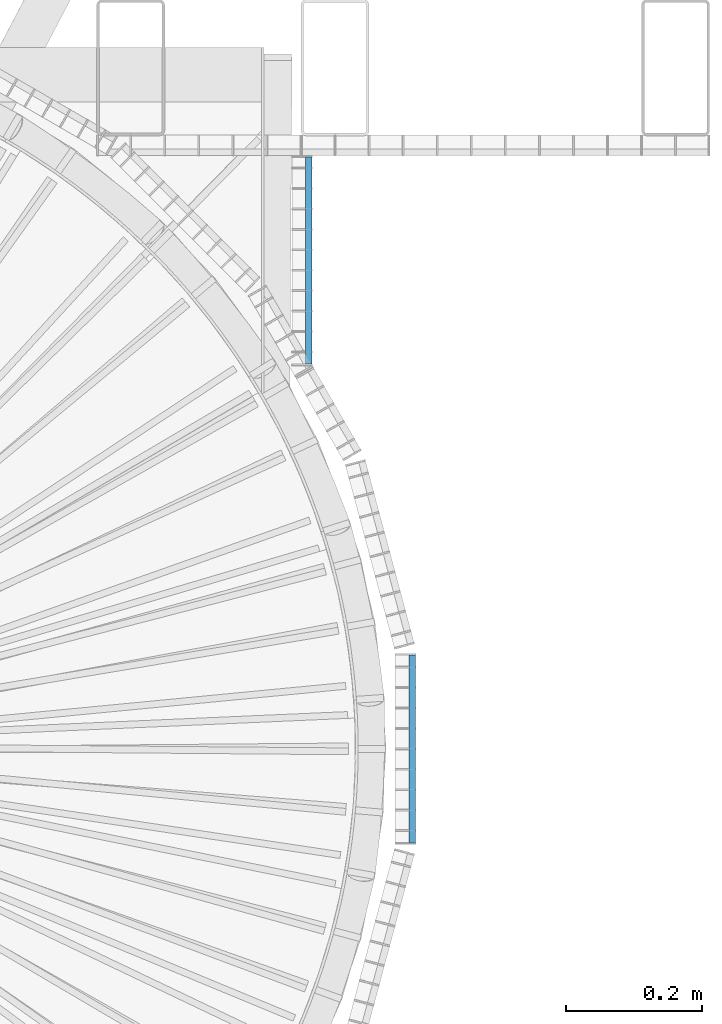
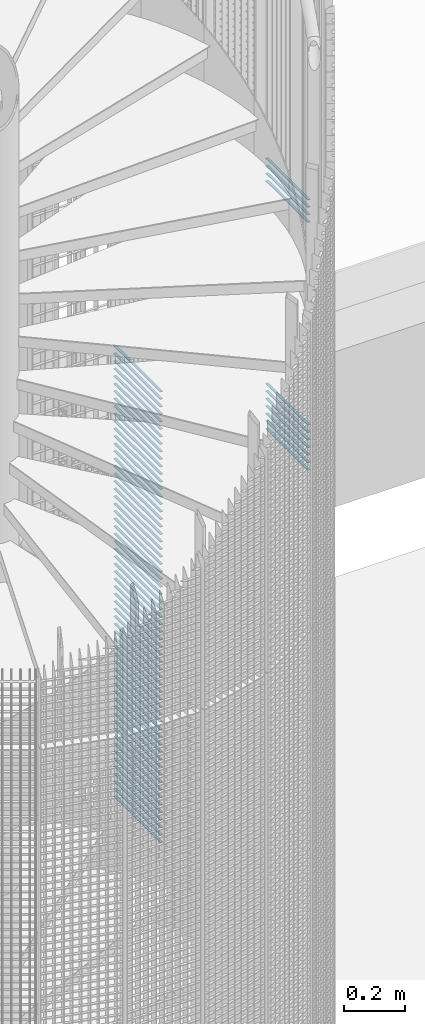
# One storey, part 267 of 1148: 72 beams, 2 elements without a shape of their own.
"""IFC2X3 building model written with IfcOpenShell, lengths in millimetres."""

import ifcopenshell
import ifcopenshell.guid

model = None  # the IFC model being written
_history = None  # IfcOwnerHistory: only IFC2X3 demands one
_inside = {}  # id of a spatial element -> (the spatial element, [elements in it])
_under = {}  # id of a project, library or spatial element -> (it, [spatial elements below it])
_declared = {}  # id of a project -> (the project, [libraries it declares])
_typed = {}  # id of a type object -> (the type object, [elements of that type])
_made_of = {}  # id of a material, layer set ... -> (it, [elements and type objects made of it])


def new_model(schema):
    """Start an empty IFC model of exactly this schema.

    Asked for "IFC4X3", IfcOpenShell would pick the latest addendum, in which some entities
    have other attributes; the version numbers below select the first issue.
    IFC2X3 requires an IfcOwnerHistory on every rooted entity: one is made here for all.
    """
    global model, _history
    if schema == "IFC4X3":
        model = ifcopenshell.file(schema_version=(4, 3, 0, 0))
    else:
        model = ifcopenshell.file(schema=schema)
    _inside.clear()
    _under.clear()
    _declared.clear()
    _typed.clear()
    _made_of.clear()
    _history = None
    if model.schema == "IFC2X3":
        org = make("IfcOrganization", Name="unknown")
        user = make(
            "IfcPersonAndOrganization",
            ThePerson=make("IfcPerson", FamilyName="unknown"),
            TheOrganization=org,
        )
        app = make(
            "IfcApplication",
            ApplicationDeveloper=org,
            Version="unknown",
            ApplicationFullName="unknown",
            ApplicationIdentifier="unknown",
        )
        _history = make(
            "IfcOwnerHistory",
            OwningUser=user,
            OwningApplication=app,
            ChangeAction="ADDED",
            CreationDate=0,
        )
    return model


def make(cls, **values):
    """One entity of the class cls with the attributes given. An attribute that is None is left unset."""
    return model.create_entity(
        cls, **{name: value for name, value in values.items() if value is not None}
    )


def rooted(cls, **values):
    """An entity with a GlobalId (a new one), such as an element, a storey or a relation."""
    return make(cls, GlobalId=ifcopenshell.guid.new(), OwnerHistory=_history, **values)


def si_unit(unit_type, name, prefix=None):
    """IfcSIUnit, for example si_unit("LENGTHUNIT", "METRE", prefix="MILLI")."""
    return make("IfcSIUnit", UnitType=unit_type, Prefix=prefix, Name=name)


def assignment(units):
    """IfcUnitAssignment: the units of a project."""
    return None if units is None else make("IfcUnitAssignment", Units=units)


def point(xyz):
    """IfcCartesianPoint."""
    return None if xyz is None else make("IfcCartesianPoint", Coordinates=xyz)


def direction(xyz):
    """IfcDirection."""
    return None if xyz is None else make("IfcDirection", DirectionRatios=xyz)


def frame(location, z_axis=None, x_axis=None):
    """IfcAxis2Placement3D, a coordinate frame: its origin and axes. An axis left out is left unset."""
    return make(
        "IfcAxis2Placement3D",
        Location=point(location),
        Axis=direction(z_axis),
        RefDirection=direction(x_axis),
    )


def frame_2d(location, x_axis=None):
    """IfcAxis2Placement2D, a coordinate frame in the plane: its origin and x axis."""
    return make(
        "IfcAxis2Placement2D", Location=point(location), RefDirection=direction(x_axis)
    )


def origin_with_axes():
    """The frame at (0, 0, 0) with the z axis (0, 0, 1) and the x axis (1, 0, 0) written out."""
    return frame((0.0, 0.0, 0.0), z_axis=(0.0, 0.0, 1.0), x_axis=(1.0, 0.0, 0.0))


def origin_2d_with_axis():
    """The frame at (0, 0) in the plane with the x axis (1, 0) written out."""
    return frame_2d((0.0, 0.0), x_axis=(1.0, 0.0))


def place(relative_to, where):
    """IfcLocalPlacement: puts the frame where relative to a parent placement (None: the world)."""
    return make(
        "IfcLocalPlacement", PlacementRelTo=relative_to, RelativePlacement=where
    )


def context(
    kind, dimensions, precision=None, world=None, true_north=None, identifier=None
):
    """IfcGeometricRepresentationContext, for example the 3D "Model" context."""
    return make(
        "IfcGeometricRepresentationContext",
        ContextIdentifier=identifier,
        ContextType=kind,
        CoordinateSpaceDimension=dimensions,
        Precision=precision,
        WorldCoordinateSystem=world,
        TrueNorth=true_north,
    )


def subcontext(parent, identifier, kind, view, scale=None):
    """IfcGeometricRepresentationSubContext, for example "Body" below "Model"."""
    return make(
        "IfcGeometricRepresentationSubContext",
        ContextIdentifier=identifier,
        ContextType=kind,
        ParentContext=parent,
        TargetScale=scale,
        TargetView=view,
    )


def project(units=None, contexts=None):
    """IfcProject with its units and contexts."""
    return rooted(
        "IfcProject",
        Name="project",
        RepresentationContexts=contexts,
        UnitsInContext=assignment(units),
    )


def spatial(cls, under=None, at=None, **own):
    """A site, building, storey or space (cls), placed at a placement, below another one or the project."""
    s = rooted(cls, ObjectPlacement=at, **own)
    if under is not None:
        _under.setdefault(under.id(), (under, []))[1].append(s)
    return s


def profile(cls, at=None, kind="AREA", **sizes):
    """A parametric profile (cls). Its sizes go by their IFC names, for example OverallWidth=200.0."""
    return make(cls, ProfileType=kind, Position=at, **sizes)


def rectangle(**sizes):
    """IfcRectangleProfileDef."""
    return profile("IfcRectangleProfileDef", **sizes)


def extrude(swept, where, along, depth):
    """IfcExtrudedAreaSolid: the profile swept, set in the frame where, extruded along a direction by depth."""
    return make(
        "IfcExtrudedAreaSolid",
        SweptArea=swept,
        Position=where,
        ExtrudedDirection=direction(along),
        Depth=depth,
    )


def shape(context_of_items, identifier, shape_type, items):
    """IfcShapeRepresentation: the items that make up one representation, for example the "Body"."""
    return make(
        "IfcShapeRepresentation",
        ContextOfItems=context_of_items,
        RepresentationIdentifier=identifier,
        RepresentationType=shape_type,
        Items=items,
    )


def material(Name=None, Category=None):
    """IfcMaterial."""
    return make("IfcMaterial", Name=Name, Category=Category)


def made_of(thing, what):
    """Note that an element or type object is made of a material, layer set ...; save() writes the relation."""
    if what is not None:
        _made_of.setdefault(what.id(), (what, []))[1].append(thing)
    return thing


def type_object(cls, material=None, **own):
    """A type object (cls), such as IfcWallType, which elements share."""
    return made_of(rooted(cls, **own), material)


def element(
    cls,
    number,
    at=None,
    inside=None,
    cuts=None,
    type_object=None,
    material=None,
    context=None,
    identifier="Body",
    shape_type=None,
    held_by="IfcProductDefinitionShape",
    body=None,
    shapes=None,
    **own,
):
    """One element of the class cls, such as IfcWall. Its Tag is "e" and its number.

    at: its placement. inside: the storey or other place that contains it. cuts: it is an
    opening in that element (IfcRelVoidsElement). A single representation is given by context,
    identifier, shape_type and body (its items); several are given by shapes. held_by: the class
    of the entity that holds the representations. save() writes the other relations.
    """
    e = rooted(cls, Tag="e%d" % number, ObjectPlacement=at, **own)
    if body is not None:
        shapes = [shape(context, identifier, shape_type, body)]
    if shapes is not None:
        e.Representation = make(held_by, Representations=shapes)
    if inside is not None:
        _inside.setdefault(inside.id(), (inside, []))[1].append(e)
    if cuts is not None:
        rooted(
            "IfcRelVoidsElement", RelatingBuildingElement=cuts, RelatedOpeningElement=e
        )
    if type_object is not None:
        _typed.setdefault(type_object.id(), (type_object, []))[1].append(e)
    return made_of(e, material)


def aggregate(whole, parts):
    """IfcRelAggregates: a whole, such as a stair, and the parts it consists of."""
    return rooted("IfcRelAggregates", RelatingObject=whole, RelatedObjects=parts)


def save(model, path):
    """Write the relations noted so far, then the file.

    IfcRelAggregates (storeys below a building ...), IfcRelContainedInSpatialStructure (elements
    in a storey), IfcRelDefinesByType, IfcRelAssociatesMaterial and IfcRelDeclares: one each for
    every whole, place, type object, material and project.
    """
    for whole, parts in _under.values():
        aggregate(whole, parts)
    for where, things in _inside.values():
        rooted(
            "IfcRelContainedInSpatialStructure",
            RelatedElements=things,
            RelatingStructure=where,
        )
    for kind, things in _typed.values():
        rooted("IfcRelDefinesByType", RelatedObjects=things, RelatingType=kind)
    for what, things in _made_of.values():
        rooted("IfcRelAssociatesMaterial", RelatedObjects=things, RelatingMaterial=what)
    for by, libraries in _declared.values():
        rooted("IfcRelDeclares", RelatingContext=by, RelatedDefinitions=libraries)
    model.write(path)


model = new_model("IFC2X3")

# Units and contexts
model_context = context("Model", 3, precision=1e-05, world=origin_with_axes())
body_context = subcontext(model_context, "Body", "Model", "MODEL_VIEW")
ifc_project = project(units=[si_unit("LENGTHUNIT", "METRE", prefix="MILLI"), si_unit("AREAUNIT", "SQUARE_METRE"), si_unit("VOLUMEUNIT", "CUBIC_METRE"), si_unit("MASSUNIT", "GRAM", prefix="KILO"), si_unit("TIMEUNIT", "SECOND"), si_unit("PLANEANGLEUNIT", "RADIAN"), si_unit("SOLIDANGLEUNIT", "STERADIAN"), si_unit("THERMODYNAMICTEMPERATUREUNIT", "DEGREE_CELSIUS"), si_unit("LUMINOUSINTENSITYUNIT", "LUMEN")], contexts=[model_context])

# Site, building, storey
site_placement = place(None, origin_with_axes())
site = spatial("IfcSite", under=ifc_project, at=site_placement, Name="Undefined", CompositionType="ELEMENT")
building_placement = place(site_placement, origin_with_axes())
building = spatial("IfcBuilding", under=site, at=building_placement, Name="Undefined", CompositionType="ELEMENT")
storey_placement = place(building_placement, origin_with_axes())
storey = spatial("IfcBuildingStorey", under=building, at=storey_placement, Name="Undefined", CompositionType="ELEMENT", Elevation=0.0)

# Assembly, beams
assembly_1_placement = place(storey_placement, origin_with_axes())
assembly_1 = element("IfcElementAssembly", 1, at=assembly_1_placement, inside=storey, Name="BORDURE", AssemblyPlace="NOTDEFINED", PredefinedType="NOTDEFINED")
ifc_material = material(Name="STEEL/S235JR")
beam_type = type_object("IfcBeamType", Name="PL2*10", PredefinedType="NOTDEFINED")
beam_1_placement = place(assembly_1_placement, frame((1113.47999999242, -137.996003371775, 16020.0), z_axis=(1.0, 0.0, 0.0), x_axis=(0.0, 1.0, 0.0)))
beam_1 = element("IfcBeam", 2, at=beam_1_placement, type_object=beam_type, material=ifc_material, Name="ENTRETOISE", context=body_context, shape_type="SweptSolid", body=[
    extrude(rectangle(XDim=2.0, YDim=10.0, at=origin_2d_with_axis()), frame((275.999999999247, 9.09494701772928e-13, 1.53210777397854e-14), z_axis=(-1.0, 0.0, 0.0), x_axis=(0.0, -1.0, 0.0)), (0.0, 0.0, 1.0), 276.0),
])
beam_2_placement = place(assembly_1_placement, frame((1113.47999999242, -137.996003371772, 15210.0), z_axis=(1.0, 0.0, 0.0), x_axis=(0.0, 1.0, 0.0)))
beam_2 = element("IfcBeam", 3, at=beam_2_placement, type_object=beam_type, material=ifc_material, Name="ENTRETOISE", context=body_context, shape_type="SweptSolid", body=[
    extrude(rectangle(XDim=2.0, YDim=10.0, at=origin_2d_with_axis()), frame((275.999999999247, 9.09494701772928e-13, 1.53210777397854e-14), z_axis=(-1.0, 0.0, 0.0), x_axis=(0.0, -1.0, 0.0)), (0.0, 0.0, 1.0), 276.0),
])
beam_3_placement = place(assembly_1_placement, frame((1113.47999999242, -137.996003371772, 15180.0), z_axis=(1.0, 0.0, 0.0), x_axis=(0.0, 1.0, 0.0)))
beam_3 = element("IfcBeam", 4, at=beam_3_placement, type_object=beam_type, material=ifc_material, Name="ENTRETOISE", context=body_context, shape_type="SweptSolid", body=[
    extrude(rectangle(XDim=2.0, YDim=10.0, at=origin_2d_with_axis()), frame((275.999999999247, 9.09494701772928e-13, 1.53210777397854e-14), z_axis=(-1.0, 0.0, 0.0), x_axis=(0.0, -1.0, 0.0)), (0.0, 0.0, 1.0), 276.0),
])
beam_4_placement = place(assembly_1_placement, frame((1113.47999999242, -137.996003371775, 16050.0), z_axis=(1.0, 0.0, 0.0), x_axis=(0.0, 1.0, 0.0)))
beam_4 = element("IfcBeam", 5, at=beam_4_placement, type_object=beam_type, material=ifc_material, Name="ENTRETOISE", context=body_context, shape_type="SweptSolid", body=[
    extrude(rectangle(XDim=2.0, YDim=10.0, at=origin_2d_with_axis()), frame((275.999999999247, 9.09494701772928e-13, 1.53210777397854e-14), z_axis=(-1.0, 0.0, 0.0), x_axis=(0.0, -1.0, 0.0)), (0.0, 0.0, 1.0), 276.0),
])
beam_5_placement = place(assembly_1_placement, frame((1113.47999999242, -137.996003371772, 15150.0), z_axis=(1.0, 0.0, 0.0), x_axis=(0.0, 1.0, 0.0)))
beam_5 = element("IfcBeam", 6, at=beam_5_placement, type_object=beam_type, material=ifc_material, Name="ENTRETOISE", context=body_context, shape_type="SweptSolid", body=[
    extrude(rectangle(XDim=2.0, YDim=10.0, at=origin_2d_with_axis()), frame((275.999999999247, 9.09494701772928e-13, 1.53210777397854e-14), z_axis=(-1.0, 0.0, 0.0), x_axis=(0.0, -1.0, 0.0)), (0.0, 0.0, 1.0), 276.0),
])
beam_6_placement = place(assembly_1_placement, frame((1113.47999999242, -137.996003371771, 15120.0), z_axis=(1.0, 0.0, 0.0), x_axis=(0.0, 1.0, 0.0)))
beam_6 = element("IfcBeam", 7, at=beam_6_placement, type_object=beam_type, material=ifc_material, Name="ENTRETOISE", context=body_context, shape_type="SweptSolid", body=[
    extrude(rectangle(XDim=2.0, YDim=10.0, at=origin_2d_with_axis()), frame((275.999999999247, 9.09494701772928e-13, 1.53210777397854e-14), z_axis=(-1.0, 0.0, 0.0), x_axis=(0.0, -1.0, 0.0)), (0.0, 0.0, 1.0), 276.0),
])
beam_7_placement = place(assembly_1_placement, frame((1113.47999999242, -137.996003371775, 16080.0), z_axis=(1.0, 0.0, 0.0), x_axis=(0.0, 1.0, 0.0)))
beam_7 = element("IfcBeam", 8, at=beam_7_placement, type_object=beam_type, material=ifc_material, Name="ENTRETOISE", context=body_context, shape_type="SweptSolid", body=[
    extrude(rectangle(XDim=2.0, YDim=10.0, at=origin_2d_with_axis()), frame((275.999999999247, 9.09494701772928e-13, 1.53210777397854e-14), z_axis=(-1.0, 0.0, 0.0), x_axis=(0.0, -1.0, 0.0)), (0.0, 0.0, 1.0), 276.0),
])
beam_8_placement = place(assembly_1_placement, frame((1113.47999999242, -137.996003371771, 15090.0), z_axis=(1.0, 0.0, 0.0), x_axis=(0.0, 1.0, 0.0)))
beam_8 = element("IfcBeam", 9, at=beam_8_placement, type_object=beam_type, material=ifc_material, Name="ENTRETOISE", context=body_context, shape_type="SweptSolid", body=[
    extrude(rectangle(XDim=2.0, YDim=10.0, at=origin_2d_with_axis()), frame((275.999999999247, 9.09494701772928e-13, 1.53210777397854e-14), z_axis=(-1.0, 0.0, 0.0), x_axis=(0.0, -1.0, 0.0)), (0.0, 0.0, 1.0), 276.0),
])
beam_9_placement = place(assembly_1_placement, frame((1113.47999999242, -137.996003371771, 15060.0), z_axis=(1.0, 0.0, 0.0), x_axis=(0.0, 1.0, 0.0)))
beam_9 = element("IfcBeam", 10, at=beam_9_placement, type_object=beam_type, material=ifc_material, Name="ENTRETOISE", context=body_context, shape_type="SweptSolid", body=[
    extrude(rectangle(XDim=2.0, YDim=10.0, at=origin_2d_with_axis()), frame((275.999999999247, 9.09494701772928e-13, 1.53210777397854e-14), z_axis=(-1.0, 0.0, 0.0), x_axis=(0.0, -1.0, 0.0)), (0.0, 0.0, 1.0), 276.0),
])
beam_10_placement = place(assembly_1_placement, frame((1113.47999999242, -137.996003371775, 16110.0), z_axis=(1.0, 0.0, 0.0), x_axis=(0.0, 1.0, 0.0)))
beam_10 = element("IfcBeam", 11, at=beam_10_placement, type_object=beam_type, material=ifc_material, Name="ENTRETOISE", context=body_context, shape_type="SweptSolid", body=[
    extrude(rectangle(XDim=2.0, YDim=10.0, at=origin_2d_with_axis()), frame((275.999999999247, 9.09494701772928e-13, 1.53210777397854e-14), z_axis=(-1.0, 0.0, 0.0), x_axis=(0.0, -1.0, 0.0)), (0.0, 0.0, 1.0), 276.0),
])
beam_11_placement = place(assembly_1_placement, frame((1113.47999999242, -137.99600337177, 15030.0), z_axis=(1.0, 0.0, 0.0), x_axis=(0.0, 1.0, 0.0)))
beam_11 = element("IfcBeam", 12, at=beam_11_placement, type_object=beam_type, material=ifc_material, Name="ENTRETOISE", context=body_context, shape_type="SweptSolid", body=[
    extrude(rectangle(XDim=2.0, YDim=10.0, at=origin_2d_with_axis()), frame((275.999999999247, 9.09494701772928e-13, 1.53210777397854e-14), z_axis=(-1.0, 0.0, 0.0), x_axis=(0.0, -1.0, 0.0)), (0.0, 0.0, 1.0), 276.0),
])
aggregate(assembly_1, [beam_1, beam_2, beam_3, beam_4, beam_5, beam_6, beam_7, beam_8, beam_9, beam_10, beam_11])

assembly_2_placement = place(storey_placement, origin_with_axes())
assembly_2 = element("IfcElementAssembly", 13, at=assembly_2_placement, inside=storey, Name="BORDURE", AssemblyPlace="NOTDEFINED", PredefinedType="NOTDEFINED")
beam_12_placement = place(assembly_2_placement, frame((961.586915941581, 564.78266928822, 14970.0), z_axis=(1.0, 0.0, 0.0), x_axis=(0.0, 1.0, 0.0)))
beam_12 = element("IfcBeam", 14, at=beam_12_placement, type_object=beam_type, material=ifc_material, Name="ENTRETOISE", context=body_context, shape_type="SweptSolid", body=[
    extrude(rectangle(XDim=2.0, YDim=10.0, at=origin_2d_with_axis()), frame((303.999999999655, 0.0, 0.0), z_axis=(-1.0, 0.0, 0.0), x_axis=(0.0, -1.0, 0.0)), (0.0, 0.0, 1.0), 304.0),
])
beam_13_placement = place(assembly_2_placement, frame((961.586915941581, 564.78266928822, 14940.0), z_axis=(1.0, 0.0, 0.0), x_axis=(0.0, 1.0, 0.0)))
beam_13 = element("IfcBeam", 15, at=beam_13_placement, type_object=beam_type, material=ifc_material, Name="ENTRETOISE", context=body_context, shape_type="SweptSolid", body=[
    extrude(rectangle(XDim=2.0, YDim=10.0, at=origin_2d_with_axis()), frame((303.999999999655, 0.0, 0.0), z_axis=(-1.0, 0.0, 0.0), x_axis=(0.0, -1.0, 0.0)), (0.0, 0.0, 1.0), 304.0),
])
beam_14_placement = place(assembly_2_placement, frame((961.586915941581, 564.78266928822, 14910.0), z_axis=(1.0, 0.0, 0.0), x_axis=(0.0, 1.0, 0.0)))
beam_14 = element("IfcBeam", 16, at=beam_14_placement, type_object=beam_type, material=ifc_material, Name="ENTRETOISE", context=body_context, shape_type="SweptSolid", body=[
    extrude(rectangle(XDim=2.0, YDim=10.0, at=origin_2d_with_axis()), frame((303.999999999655, 0.0, 0.0), z_axis=(-1.0, 0.0, 0.0), x_axis=(0.0, -1.0, 0.0)), (0.0, 0.0, 1.0), 304.0),
])
beam_15_placement = place(assembly_2_placement, frame((961.586915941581, 564.782669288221, 14880.0), z_axis=(1.0, 0.0, 0.0), x_axis=(0.0, 1.0, 0.0)))
beam_15 = element("IfcBeam", 17, at=beam_15_placement, type_object=beam_type, material=ifc_material, Name="ENTRETOISE", context=body_context, shape_type="SweptSolid", body=[
    extrude(rectangle(XDim=2.0, YDim=10.0, at=origin_2d_with_axis()), frame((303.999999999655, 0.0, 0.0), z_axis=(-1.0, 0.0, 0.0), x_axis=(0.0, -1.0, 0.0)), (0.0, 0.0, 1.0), 304.0),
])
beam_16_placement = place(assembly_2_placement, frame((961.586915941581, 564.78266928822, 14850.0), z_axis=(1.0, 0.0, 0.0), x_axis=(0.0, 1.0, 0.0)))
beam_16 = element("IfcBeam", 18, at=beam_16_placement, type_object=beam_type, material=ifc_material, Name="ENTRETOISE", context=body_context, shape_type="SweptSolid", body=[
    extrude(rectangle(XDim=2.0, YDim=10.0, at=origin_2d_with_axis()), frame((303.999999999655, 0.0, 0.0), z_axis=(-1.0, 0.0, 0.0), x_axis=(0.0, -1.0, 0.0)), (0.0, 0.0, 1.0), 304.0),
])
beam_17_placement = place(assembly_2_placement, frame((961.586915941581, 564.78266928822, 14820.0), z_axis=(1.0, 0.0, 0.0), x_axis=(0.0, 1.0, 0.0)))
beam_17 = element("IfcBeam", 19, at=beam_17_placement, type_object=beam_type, material=ifc_material, Name="ENTRETOISE", context=body_context, shape_type="SweptSolid", body=[
    extrude(rectangle(XDim=2.0, YDim=10.0, at=origin_2d_with_axis()), frame((303.999999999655, 0.0, 0.0), z_axis=(-1.0, 0.0, 0.0), x_axis=(0.0, -1.0, 0.0)), (0.0, 0.0, 1.0), 304.0),
])
beam_18_placement = place(assembly_2_placement, frame((961.586915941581, 564.782669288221, 14790.0), z_axis=(1.0, 0.0, 0.0), x_axis=(0.0, 1.0, 0.0)))
beam_18 = element("IfcBeam", 20, at=beam_18_placement, type_object=beam_type, material=ifc_material, Name="ENTRETOISE", context=body_context, shape_type="SweptSolid", body=[
    extrude(rectangle(XDim=2.0, YDim=10.0, at=origin_2d_with_axis()), frame((303.999999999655, 0.0, 0.0), z_axis=(-1.0, 0.0, 0.0), x_axis=(0.0, -1.0, 0.0)), (0.0, 0.0, 1.0), 304.0),
])
beam_19_placement = place(assembly_2_placement, frame((961.586915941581, 564.782669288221, 14760.0), z_axis=(1.0, 0.0, 0.0), x_axis=(0.0, 1.0, 0.0)))
beam_19 = element("IfcBeam", 21, at=beam_19_placement, type_object=beam_type, material=ifc_material, Name="ENTRETOISE", context=body_context, shape_type="SweptSolid", body=[
    extrude(rectangle(XDim=2.0, YDim=10.0, at=origin_2d_with_axis()), frame((303.999999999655, 0.0, 0.0), z_axis=(-1.0, 0.0, 0.0), x_axis=(0.0, -1.0, 0.0)), (0.0, 0.0, 1.0), 304.0),
])
beam_20_placement = place(assembly_2_placement, frame((961.586915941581, 564.782669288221, 14730.0), z_axis=(1.0, 0.0, 0.0), x_axis=(0.0, 1.0, 0.0)))
beam_20 = element("IfcBeam", 22, at=beam_20_placement, type_object=beam_type, material=ifc_material, Name="ENTRETOISE", context=body_context, shape_type="SweptSolid", body=[
    extrude(rectangle(XDim=2.0, YDim=10.0, at=origin_2d_with_axis()), frame((303.999999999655, 0.0, 0.0), z_axis=(-1.0, 0.0, 0.0), x_axis=(0.0, -1.0, 0.0)), (0.0, 0.0, 1.0), 304.0),
])
beam_21_placement = place(assembly_2_placement, frame((961.586915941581, 564.782669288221, 14700.0), z_axis=(1.0, 0.0, 0.0), x_axis=(0.0, 1.0, 0.0)))
beam_21 = element("IfcBeam", 23, at=beam_21_placement, type_object=beam_type, material=ifc_material, Name="ENTRETOISE", context=body_context, shape_type="SweptSolid", body=[
    extrude(rectangle(XDim=2.0, YDim=10.0, at=origin_2d_with_axis()), frame((303.999999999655, 0.0, 0.0), z_axis=(-1.0, 0.0, 0.0), x_axis=(0.0, -1.0, 0.0)), (0.0, 0.0, 1.0), 304.0),
])
beam_22_placement = place(assembly_2_placement, frame((961.586915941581, 564.782669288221, 14670.0), z_axis=(1.0, 0.0, 0.0), x_axis=(0.0, 1.0, 0.0)))
beam_22 = element("IfcBeam", 24, at=beam_22_placement, type_object=beam_type, material=ifc_material, Name="ENTRETOISE", context=body_context, shape_type="SweptSolid", body=[
    extrude(rectangle(XDim=2.0, YDim=10.0, at=origin_2d_with_axis()), frame((303.999999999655, 0.0, 0.0), z_axis=(-1.0, 0.0, 0.0), x_axis=(0.0, -1.0, 0.0)), (0.0, 0.0, 1.0), 304.0),
])
beam_23_placement = place(assembly_2_placement, frame((961.586915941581, 564.782669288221, 14640.0), z_axis=(1.0, 0.0, 0.0), x_axis=(0.0, 1.0, 0.0)))
beam_23 = element("IfcBeam", 25, at=beam_23_placement, type_object=beam_type, material=ifc_material, Name="ENTRETOISE", context=body_context, shape_type="SweptSolid", body=[
    extrude(rectangle(XDim=2.0, YDim=10.0, at=origin_2d_with_axis()), frame((303.999999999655, 0.0, 0.0), z_axis=(-1.0, 0.0, 0.0), x_axis=(0.0, -1.0, 0.0)), (0.0, 0.0, 1.0), 304.0),
])
beam_24_placement = place(assembly_2_placement, frame((961.586915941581, 564.782669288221, 14610.0), z_axis=(1.0, 0.0, 0.0), x_axis=(0.0, 1.0, 0.0)))
beam_24 = element("IfcBeam", 26, at=beam_24_placement, type_object=beam_type, material=ifc_material, Name="ENTRETOISE", context=body_context, shape_type="SweptSolid", body=[
    extrude(rectangle(XDim=2.0, YDim=10.0, at=origin_2d_with_axis()), frame((303.999999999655, 0.0, 0.0), z_axis=(-1.0, 0.0, 0.0), x_axis=(0.0, -1.0, 0.0)), (0.0, 0.0, 1.0), 304.0),
])
beam_25_placement = place(assembly_2_placement, frame((961.586915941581, 564.782669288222, 14580.0), z_axis=(1.0, 0.0, 0.0), x_axis=(0.0, 1.0, 0.0)))
beam_25 = element("IfcBeam", 27, at=beam_25_placement, type_object=beam_type, material=ifc_material, Name="ENTRETOISE", context=body_context, shape_type="SweptSolid", body=[
    extrude(rectangle(XDim=2.0, YDim=10.0, at=origin_2d_with_axis()), frame((303.999999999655, 0.0, 0.0), z_axis=(-1.0, 0.0, 0.0), x_axis=(0.0, -1.0, 0.0)), (0.0, 0.0, 1.0), 304.0),
])
beam_26_placement = place(assembly_2_placement, frame((961.586915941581, 564.782669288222, 14550.0), z_axis=(1.0, 0.0, 0.0), x_axis=(0.0, 1.0, 0.0)))
beam_26 = element("IfcBeam", 28, at=beam_26_placement, type_object=beam_type, material=ifc_material, Name="ENTRETOISE", context=body_context, shape_type="SweptSolid", body=[
    extrude(rectangle(XDim=2.0, YDim=10.0, at=origin_2d_with_axis()), frame((303.999999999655, 0.0, 0.0), z_axis=(-1.0, 0.0, 0.0), x_axis=(0.0, -1.0, 0.0)), (0.0, 0.0, 1.0), 304.0),
])
beam_27_placement = place(assembly_2_placement, frame((961.586915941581, 564.782669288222, 14520.0), z_axis=(1.0, 0.0, 0.0), x_axis=(0.0, 1.0, 0.0)))
beam_27 = element("IfcBeam", 29, at=beam_27_placement, type_object=beam_type, material=ifc_material, Name="ENTRETOISE", context=body_context, shape_type="SweptSolid", body=[
    extrude(rectangle(XDim=2.0, YDim=10.0, at=origin_2d_with_axis()), frame((303.999999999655, 0.0, 0.0), z_axis=(-1.0, 0.0, 0.0), x_axis=(0.0, -1.0, 0.0)), (0.0, 0.0, 1.0), 304.0),
])
beam_28_placement = place(assembly_2_placement, frame((961.586915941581, 564.782669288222, 14490.0), z_axis=(1.0, 0.0, 0.0), x_axis=(0.0, 1.0, 0.0)))
beam_28 = element("IfcBeam", 30, at=beam_28_placement, type_object=beam_type, material=ifc_material, Name="ENTRETOISE", context=body_context, shape_type="SweptSolid", body=[
    extrude(rectangle(XDim=2.0, YDim=10.0, at=origin_2d_with_axis()), frame((303.999999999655, 0.0, 0.0), z_axis=(-1.0, 0.0, 0.0), x_axis=(0.0, -1.0, 0.0)), (0.0, 0.0, 1.0), 304.0),
])
beam_29_placement = place(assembly_2_placement, frame((961.586915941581, 564.782669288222, 14460.0), z_axis=(1.0, 0.0, 0.0), x_axis=(0.0, 1.0, 0.0)))
beam_29 = element("IfcBeam", 31, at=beam_29_placement, type_object=beam_type, material=ifc_material, Name="ENTRETOISE", context=body_context, shape_type="SweptSolid", body=[
    extrude(rectangle(XDim=2.0, YDim=10.0, at=origin_2d_with_axis()), frame((303.999999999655, 0.0, 0.0), z_axis=(-1.0, 0.0, 0.0), x_axis=(0.0, -1.0, 0.0)), (0.0, 0.0, 1.0), 304.0),
])
beam_30_placement = place(assembly_2_placement, frame((961.586915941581, 564.782669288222, 14430.0), z_axis=(1.0, 0.0, 0.0), x_axis=(0.0, 1.0, 0.0)))
beam_30 = element("IfcBeam", 32, at=beam_30_placement, type_object=beam_type, material=ifc_material, Name="ENTRETOISE", context=body_context, shape_type="SweptSolid", body=[
    extrude(rectangle(XDim=2.0, YDim=10.0, at=origin_2d_with_axis()), frame((303.999999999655, 0.0, 0.0), z_axis=(-1.0, 0.0, 0.0), x_axis=(0.0, -1.0, 0.0)), (0.0, 0.0, 1.0), 304.0),
])
beam_31_placement = place(assembly_2_placement, frame((961.586915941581, 564.782669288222, 14400.0), z_axis=(1.0, 0.0, 0.0), x_axis=(0.0, 1.0, 0.0)))
beam_31 = element("IfcBeam", 33, at=beam_31_placement, type_object=beam_type, material=ifc_material, Name="ENTRETOISE", context=body_context, shape_type="SweptSolid", body=[
    extrude(rectangle(XDim=2.0, YDim=10.0, at=origin_2d_with_axis()), frame((303.999999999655, 0.0, 0.0), z_axis=(-1.0, 0.0, 0.0), x_axis=(0.0, -1.0, 0.0)), (0.0, 0.0, 1.0), 304.0),
])
beam_32_placement = place(assembly_2_placement, frame((961.586915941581, 564.782669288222, 14370.0), z_axis=(1.0, 0.0, 0.0), x_axis=(0.0, 1.0, 0.0)))
beam_32 = element("IfcBeam", 34, at=beam_32_placement, type_object=beam_type, material=ifc_material, Name="ENTRETOISE", context=body_context, shape_type="SweptSolid", body=[
    extrude(rectangle(XDim=2.0, YDim=10.0, at=origin_2d_with_axis()), frame((303.999999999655, 0.0, 0.0), z_axis=(-1.0, 0.0, 0.0), x_axis=(0.0, -1.0, 0.0)), (0.0, 0.0, 1.0), 304.0),
])
beam_33_placement = place(assembly_2_placement, frame((961.586915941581, 564.782669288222, 14340.0), z_axis=(1.0, 0.0, 0.0), x_axis=(0.0, 1.0, 0.0)))
beam_33 = element("IfcBeam", 35, at=beam_33_placement, type_object=beam_type, material=ifc_material, Name="ENTRETOISE", context=body_context, shape_type="SweptSolid", body=[
    extrude(rectangle(XDim=2.0, YDim=10.0, at=origin_2d_with_axis()), frame((303.999999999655, 0.0, 0.0), z_axis=(-1.0, 0.0, 0.0), x_axis=(0.0, -1.0, 0.0)), (0.0, 0.0, 1.0), 304.0),
])
beam_34_placement = place(assembly_2_placement, frame((961.586915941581, 564.782669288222, 14310.0), z_axis=(1.0, 0.0, 0.0), x_axis=(0.0, 1.0, 0.0)))
beam_34 = element("IfcBeam", 36, at=beam_34_placement, type_object=beam_type, material=ifc_material, Name="ENTRETOISE", context=body_context, shape_type="SweptSolid", body=[
    extrude(rectangle(XDim=2.0, YDim=10.0, at=origin_2d_with_axis()), frame((303.999999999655, 0.0, 0.0), z_axis=(-1.0, 0.0, 0.0), x_axis=(0.0, -1.0, 0.0)), (0.0, 0.0, 1.0), 304.0),
])
beam_35_placement = place(assembly_2_placement, frame((961.586915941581, 564.782669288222, 14280.0), z_axis=(1.0, 0.0, 0.0), x_axis=(0.0, 1.0, 0.0)))
beam_35 = element("IfcBeam", 37, at=beam_35_placement, type_object=beam_type, material=ifc_material, Name="ENTRETOISE", context=body_context, shape_type="SweptSolid", body=[
    extrude(rectangle(XDim=2.0, YDim=10.0, at=origin_2d_with_axis()), frame((303.999999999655, 0.0, 0.0), z_axis=(-1.0, 0.0, 0.0), x_axis=(0.0, -1.0, 0.0)), (0.0, 0.0, 1.0), 304.0),
])
beam_36_placement = place(assembly_2_placement, frame((961.586915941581, 564.782669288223, 14250.0), z_axis=(1.0, 0.0, 0.0), x_axis=(0.0, 1.0, 0.0)))
beam_36 = element("IfcBeam", 38, at=beam_36_placement, type_object=beam_type, material=ifc_material, Name="ENTRETOISE", context=body_context, shape_type="SweptSolid", body=[
    extrude(rectangle(XDim=2.0, YDim=10.0, at=origin_2d_with_axis()), frame((303.999999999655, 0.0, 0.0), z_axis=(-1.0, 0.0, 0.0), x_axis=(0.0, -1.0, 0.0)), (0.0, 0.0, 1.0), 304.0),
])
beam_37_placement = place(assembly_2_placement, frame((961.586915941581, 564.782669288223, 14220.0), z_axis=(1.0, 0.0, 0.0), x_axis=(0.0, 1.0, 0.0)))
beam_37 = element("IfcBeam", 39, at=beam_37_placement, type_object=beam_type, material=ifc_material, Name="ENTRETOISE", context=body_context, shape_type="SweptSolid", body=[
    extrude(rectangle(XDim=2.0, YDim=10.0, at=origin_2d_with_axis()), frame((303.999999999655, 0.0, 0.0), z_axis=(-1.0, 0.0, 0.0), x_axis=(0.0, -1.0, 0.0)), (0.0, 0.0, 1.0), 304.0),
])
beam_38_placement = place(assembly_2_placement, frame((961.586915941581, 564.782669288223, 14190.0), z_axis=(1.0, 0.0, 0.0), x_axis=(0.0, 1.0, 0.0)))
beam_38 = element("IfcBeam", 40, at=beam_38_placement, type_object=beam_type, material=ifc_material, Name="ENTRETOISE", context=body_context, shape_type="SweptSolid", body=[
    extrude(rectangle(XDim=2.0, YDim=10.0, at=origin_2d_with_axis()), frame((303.999999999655, 0.0, 0.0), z_axis=(-1.0, 0.0, 0.0), x_axis=(0.0, -1.0, 0.0)), (0.0, 0.0, 1.0), 304.0),
])
beam_39_placement = place(assembly_2_placement, frame((961.586915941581, 564.782669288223, 14160.0), z_axis=(1.0, 0.0, 0.0), x_axis=(0.0, 1.0, 0.0)))
beam_39 = element("IfcBeam", 41, at=beam_39_placement, type_object=beam_type, material=ifc_material, Name="ENTRETOISE", context=body_context, shape_type="SweptSolid", body=[
    extrude(rectangle(XDim=2.0, YDim=10.0, at=origin_2d_with_axis()), frame((303.999999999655, 0.0, 0.0), z_axis=(-1.0, 0.0, 0.0), x_axis=(0.0, -1.0, 0.0)), (0.0, 0.0, 1.0), 304.0),
])
beam_40_placement = place(assembly_2_placement, frame((961.586915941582, 564.782669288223, 14130.0), z_axis=(1.0, 0.0, 0.0), x_axis=(0.0, 1.0, 0.0)))
beam_40 = element("IfcBeam", 42, at=beam_40_placement, type_object=beam_type, material=ifc_material, Name="ENTRETOISE", context=body_context, shape_type="SweptSolid", body=[
    extrude(rectangle(XDim=2.0, YDim=10.0, at=origin_2d_with_axis()), frame((303.999999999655, 0.0, 0.0), z_axis=(-1.0, 0.0, 0.0), x_axis=(0.0, -1.0, 0.0)), (0.0, 0.0, 1.0), 304.0),
])
beam_41_placement = place(assembly_2_placement, frame((961.586915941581, 564.782669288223, 14100.0), z_axis=(1.0, 0.0, 0.0), x_axis=(0.0, 1.0, 0.0)))
beam_41 = element("IfcBeam", 43, at=beam_41_placement, type_object=beam_type, material=ifc_material, Name="ENTRETOISE", context=body_context, shape_type="SweptSolid", body=[
    extrude(rectangle(XDim=2.0, YDim=10.0, at=origin_2d_with_axis()), frame((303.999999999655, 0.0, 0.0), z_axis=(-1.0, 0.0, 0.0), x_axis=(0.0, -1.0, 0.0)), (0.0, 0.0, 1.0), 304.0),
])
beam_42_placement = place(assembly_2_placement, frame((961.586915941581, 564.782669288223, 14070.0), z_axis=(1.0, 0.0, 0.0), x_axis=(0.0, 1.0, 0.0)))
beam_42 = element("IfcBeam", 44, at=beam_42_placement, type_object=beam_type, material=ifc_material, Name="ENTRETOISE", context=body_context, shape_type="SweptSolid", body=[
    extrude(rectangle(XDim=2.0, YDim=10.0, at=origin_2d_with_axis()), frame((303.999999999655, 0.0, 0.0), z_axis=(-1.0, 0.0, 0.0), x_axis=(0.0, -1.0, 0.0)), (0.0, 0.0, 1.0), 304.0),
])
beam_43_placement = place(assembly_2_placement, frame((961.586915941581, 564.782669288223, 14040.0), z_axis=(1.0, 0.0, 0.0), x_axis=(0.0, 1.0, 0.0)))
beam_43 = element("IfcBeam", 45, at=beam_43_placement, type_object=beam_type, material=ifc_material, Name="ENTRETOISE", context=body_context, shape_type="SweptSolid", body=[
    extrude(rectangle(XDim=2.0, YDim=10.0, at=origin_2d_with_axis()), frame((303.999999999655, 0.0, 0.0), z_axis=(-1.0, 0.0, 0.0), x_axis=(0.0, -1.0, 0.0)), (0.0, 0.0, 1.0), 304.0),
])
beam_44_placement = place(assembly_2_placement, frame((961.586915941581, 564.782669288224, 14010.0), z_axis=(1.0, 0.0, 0.0), x_axis=(0.0, 1.0, 0.0)))
beam_44 = element("IfcBeam", 46, at=beam_44_placement, type_object=beam_type, material=ifc_material, Name="ENTRETOISE", context=body_context, shape_type="SweptSolid", body=[
    extrude(rectangle(XDim=2.0, YDim=10.0, at=origin_2d_with_axis()), frame((303.999999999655, 0.0, 0.0), z_axis=(-1.0, 0.0, 0.0), x_axis=(0.0, -1.0, 0.0)), (0.0, 0.0, 1.0), 304.0),
])
beam_45_placement = place(assembly_2_placement, frame((961.586915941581, 564.782669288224, 13980.0), z_axis=(1.0, 0.0, 0.0), x_axis=(0.0, 1.0, 0.0)))
beam_45 = element("IfcBeam", 47, at=beam_45_placement, type_object=beam_type, material=ifc_material, Name="ENTRETOISE", context=body_context, shape_type="SweptSolid", body=[
    extrude(rectangle(XDim=2.0, YDim=10.0, at=origin_2d_with_axis()), frame((303.999999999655, 0.0, 0.0), z_axis=(-1.0, 0.0, 0.0), x_axis=(0.0, -1.0, 0.0)), (0.0, 0.0, 1.0), 304.0),
])
beam_46_placement = place(assembly_2_placement, frame((961.586915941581, 564.782669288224, 13950.0), z_axis=(1.0, 0.0, 0.0), x_axis=(0.0, 1.0, 0.0)))
beam_46 = element("IfcBeam", 48, at=beam_46_placement, type_object=beam_type, material=ifc_material, Name="ENTRETOISE", context=body_context, shape_type="SweptSolid", body=[
    extrude(rectangle(XDim=2.0, YDim=10.0, at=origin_2d_with_axis()), frame((303.999999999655, 0.0, 0.0), z_axis=(-1.0, 0.0, 0.0), x_axis=(0.0, -1.0, 0.0)), (0.0, 0.0, 1.0), 304.0),
])
beam_47_placement = place(assembly_2_placement, frame((961.586915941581, 564.782669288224, 13920.0), z_axis=(1.0, 0.0, 0.0), x_axis=(0.0, 1.0, 0.0)))
beam_47 = element("IfcBeam", 49, at=beam_47_placement, type_object=beam_type, material=ifc_material, Name="ENTRETOISE", context=body_context, shape_type="SweptSolid", body=[
    extrude(rectangle(XDim=2.0, YDim=10.0, at=origin_2d_with_axis()), frame((303.999999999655, 0.0, 0.0), z_axis=(-1.0, 0.0, 0.0), x_axis=(0.0, -1.0, 0.0)), (0.0, 0.0, 1.0), 304.0),
])
beam_48_placement = place(assembly_2_placement, frame((961.586915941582, 564.782669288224, 13890.0), z_axis=(1.0, 0.0, 0.0), x_axis=(0.0, 1.0, 0.0)))
beam_48 = element("IfcBeam", 50, at=beam_48_placement, type_object=beam_type, material=ifc_material, Name="ENTRETOISE", context=body_context, shape_type="SweptSolid", body=[
    extrude(rectangle(XDim=2.0, YDim=10.0, at=origin_2d_with_axis()), frame((303.999999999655, 0.0, 0.0), z_axis=(-1.0, 0.0, 0.0), x_axis=(0.0, -1.0, 0.0)), (0.0, 0.0, 1.0), 304.0),
])
beam_49_placement = place(assembly_2_placement, frame((961.586915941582, 564.782669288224, 13860.0), z_axis=(1.0, 0.0, 0.0), x_axis=(0.0, 1.0, 0.0)))
beam_49 = element("IfcBeam", 51, at=beam_49_placement, type_object=beam_type, material=ifc_material, Name="ENTRETOISE", context=body_context, shape_type="SweptSolid", body=[
    extrude(rectangle(XDim=2.0, YDim=10.0, at=origin_2d_with_axis()), frame((303.999999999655, 0.0, 0.0), z_axis=(-1.0, 0.0, 0.0), x_axis=(0.0, -1.0, 0.0)), (0.0, 0.0, 1.0), 304.0),
])
beam_50_placement = place(assembly_2_placement, frame((961.586915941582, 564.782669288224, 13830.0), z_axis=(1.0, 0.0, 0.0), x_axis=(0.0, 1.0, 0.0)))
beam_50 = element("IfcBeam", 52, at=beam_50_placement, type_object=beam_type, material=ifc_material, Name="ENTRETOISE", context=body_context, shape_type="SweptSolid", body=[
    extrude(rectangle(XDim=2.0, YDim=10.0, at=origin_2d_with_axis()), frame((303.999999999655, 0.0, 0.0), z_axis=(-1.0, 0.0, 0.0), x_axis=(0.0, -1.0, 0.0)), (0.0, 0.0, 1.0), 304.0),
])
beam_51_placement = place(assembly_2_placement, frame((961.586915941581, 564.782669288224, 13800.0), z_axis=(1.0, 0.0, 0.0), x_axis=(0.0, 1.0, 0.0)))
beam_51 = element("IfcBeam", 53, at=beam_51_placement, type_object=beam_type, material=ifc_material, Name="ENTRETOISE", context=body_context, shape_type="SweptSolid", body=[
    extrude(rectangle(XDim=2.0, YDim=10.0, at=origin_2d_with_axis()), frame((303.999999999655, 0.0, 0.0), z_axis=(-1.0, 0.0, 0.0), x_axis=(0.0, -1.0, 0.0)), (0.0, 0.0, 1.0), 304.0),
])
beam_52_placement = place(assembly_2_placement, frame((961.586915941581, 564.782669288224, 13770.0), z_axis=(1.0, 0.0, 0.0), x_axis=(0.0, 1.0, 0.0)))
beam_52 = element("IfcBeam", 54, at=beam_52_placement, type_object=beam_type, material=ifc_material, Name="ENTRETOISE", context=body_context, shape_type="SweptSolid", body=[
    extrude(rectangle(XDim=2.0, YDim=10.0, at=origin_2d_with_axis()), frame((303.999999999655, 0.0, 0.0), z_axis=(-1.0, 0.0, 0.0), x_axis=(0.0, -1.0, 0.0)), (0.0, 0.0, 1.0), 304.0),
])
beam_53_placement = place(assembly_2_placement, frame((961.586915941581, 564.782669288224, 13740.0), z_axis=(1.0, 0.0, 0.0), x_axis=(0.0, 1.0, 0.0)))
beam_53 = element("IfcBeam", 55, at=beam_53_placement, type_object=beam_type, material=ifc_material, Name="ENTRETOISE", context=body_context, shape_type="SweptSolid", body=[
    extrude(rectangle(XDim=2.0, YDim=10.0, at=origin_2d_with_axis()), frame((303.999999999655, 0.0, 0.0), z_axis=(-1.0, 0.0, 0.0), x_axis=(0.0, -1.0, 0.0)), (0.0, 0.0, 1.0), 304.0),
])
beam_54_placement = place(assembly_2_placement, frame((961.586915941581, 564.782669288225, 13710.0), z_axis=(1.0, 0.0, 0.0), x_axis=(0.0, 1.0, 0.0)))
beam_54 = element("IfcBeam", 56, at=beam_54_placement, type_object=beam_type, material=ifc_material, Name="ENTRETOISE", context=body_context, shape_type="SweptSolid", body=[
    extrude(rectangle(XDim=2.0, YDim=10.0, at=origin_2d_with_axis()), frame((303.999999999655, 0.0, 0.0), z_axis=(-1.0, 0.0, 0.0), x_axis=(0.0, -1.0, 0.0)), (0.0, 0.0, 1.0), 304.0),
])
beam_55_placement = place(assembly_2_placement, frame((961.586915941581, 564.782669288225, 13680.0), z_axis=(1.0, 0.0, 0.0), x_axis=(0.0, 1.0, 0.0)))
beam_55 = element("IfcBeam", 57, at=beam_55_placement, type_object=beam_type, material=ifc_material, Name="ENTRETOISE", context=body_context, shape_type="SweptSolid", body=[
    extrude(rectangle(XDim=2.0, YDim=10.0, at=origin_2d_with_axis()), frame((303.999999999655, 0.0, 0.0), z_axis=(-1.0, 0.0, 0.0), x_axis=(0.0, -1.0, 0.0)), (0.0, 0.0, 1.0), 304.0),
])
beam_56_placement = place(assembly_2_placement, frame((961.586915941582, 564.782669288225, 13650.0), z_axis=(1.0, 0.0, 0.0), x_axis=(0.0, 1.0, 0.0)))
beam_56 = element("IfcBeam", 58, at=beam_56_placement, type_object=beam_type, material=ifc_material, Name="ENTRETOISE", context=body_context, shape_type="SweptSolid", body=[
    extrude(rectangle(XDim=2.0, YDim=10.0, at=origin_2d_with_axis()), frame((303.999999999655, 0.0, 0.0), z_axis=(-1.0, 0.0, 0.0), x_axis=(0.0, -1.0, 0.0)), (0.0, 0.0, 1.0), 304.0),
])
beam_57_placement = place(assembly_2_placement, frame((961.586915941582, 564.782669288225, 13620.0), z_axis=(1.0, 0.0, 0.0), x_axis=(0.0, 1.0, 0.0)))
beam_57 = element("IfcBeam", 59, at=beam_57_placement, type_object=beam_type, material=ifc_material, Name="ENTRETOISE", context=body_context, shape_type="SweptSolid", body=[
    extrude(rectangle(XDim=2.0, YDim=10.0, at=origin_2d_with_axis()), frame((303.999999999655, 0.0, 0.0), z_axis=(-1.0, 0.0, 0.0), x_axis=(0.0, -1.0, 0.0)), (0.0, 0.0, 1.0), 304.0),
])
beam_58_placement = place(assembly_2_placement, frame((961.586915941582, 564.782669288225, 13590.0), z_axis=(1.0, 0.0, 0.0), x_axis=(0.0, 1.0, 0.0)))
beam_58 = element("IfcBeam", 60, at=beam_58_placement, type_object=beam_type, material=ifc_material, Name="ENTRETOISE", context=body_context, shape_type="SweptSolid", body=[
    extrude(rectangle(XDim=2.0, YDim=10.0, at=origin_2d_with_axis()), frame((303.999999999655, 0.0, 0.0), z_axis=(-1.0, 0.0, 0.0), x_axis=(0.0, -1.0, 0.0)), (0.0, 0.0, 1.0), 304.0),
])
beam_59_placement = place(assembly_2_placement, frame((961.586915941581, 564.782669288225, 13560.0), z_axis=(1.0, 0.0, 0.0), x_axis=(0.0, 1.0, 0.0)))
beam_59 = element("IfcBeam", 61, at=beam_59_placement, type_object=beam_type, material=ifc_material, Name="ENTRETOISE", context=body_context, shape_type="SweptSolid", body=[
    extrude(rectangle(XDim=2.0, YDim=10.0, at=origin_2d_with_axis()), frame((303.999999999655, 0.0, 0.0), z_axis=(-1.0, 0.0, 0.0), x_axis=(0.0, -1.0, 0.0)), (0.0, 0.0, 1.0), 304.0),
])
beam_60_placement = place(assembly_2_placement, frame((961.586915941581, 564.782669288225, 13530.0), z_axis=(1.0, 0.0, 0.0), x_axis=(0.0, 1.0, 0.0)))
beam_60 = element("IfcBeam", 62, at=beam_60_placement, type_object=beam_type, material=ifc_material, Name="ENTRETOISE", context=body_context, shape_type="SweptSolid", body=[
    extrude(rectangle(XDim=2.0, YDim=10.0, at=origin_2d_with_axis()), frame((303.999999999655, 0.0, 0.0), z_axis=(-1.0, 0.0, 0.0), x_axis=(0.0, -1.0, 0.0)), (0.0, 0.0, 1.0), 304.0),
])
beam_61_placement = place(assembly_2_placement, frame((961.586915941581, 564.782669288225, 13500.0), z_axis=(1.0, 0.0, 0.0), x_axis=(0.0, 1.0, 0.0)))
beam_61 = element("IfcBeam", 63, at=beam_61_placement, type_object=beam_type, material=ifc_material, Name="ENTRETOISE", context=body_context, shape_type="SweptSolid", body=[
    extrude(rectangle(XDim=2.0, YDim=10.0, at=origin_2d_with_axis()), frame((303.999999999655, 0.0, 0.0), z_axis=(-1.0, 0.0, 0.0), x_axis=(0.0, -1.0, 0.0)), (0.0, 0.0, 1.0), 304.0),
])
beam_62_placement = place(assembly_2_placement, frame((961.586915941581, 564.782669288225, 13470.0), z_axis=(1.0, 0.0, 0.0), x_axis=(0.0, 1.0, 0.0)))
beam_62 = element("IfcBeam", 64, at=beam_62_placement, type_object=beam_type, material=ifc_material, Name="ENTRETOISE", context=body_context, shape_type="SweptSolid", body=[
    extrude(rectangle(XDim=2.0, YDim=10.0, at=origin_2d_with_axis()), frame((303.999999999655, 0.0, 0.0), z_axis=(-1.0, 0.0, 0.0), x_axis=(0.0, -1.0, 0.0)), (0.0, 0.0, 1.0), 304.0),
])
beam_63_placement = place(assembly_2_placement, frame((961.586915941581, 564.782669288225, 13440.0), z_axis=(1.0, 0.0, 0.0), x_axis=(0.0, 1.0, 0.0)))
beam_63 = element("IfcBeam", 65, at=beam_63_placement, type_object=beam_type, material=ifc_material, Name="ENTRETOISE", context=body_context, shape_type="SweptSolid", body=[
    extrude(rectangle(XDim=2.0, YDim=10.0, at=origin_2d_with_axis()), frame((303.999999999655, 0.0, 0.0), z_axis=(-1.0, 0.0, 0.0), x_axis=(0.0, -1.0, 0.0)), (0.0, 0.0, 1.0), 304.0),
])
beam_64_placement = place(assembly_2_placement, frame((961.586915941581, 564.782669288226, 13410.0), z_axis=(1.0, 0.0, 0.0), x_axis=(0.0, 1.0, 0.0)))
beam_64 = element("IfcBeam", 66, at=beam_64_placement, type_object=beam_type, material=ifc_material, Name="ENTRETOISE", context=body_context, shape_type="SweptSolid", body=[
    extrude(rectangle(XDim=2.0, YDim=10.0, at=origin_2d_with_axis()), frame((303.999999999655, 0.0, 0.0), z_axis=(-1.0, 0.0, 0.0), x_axis=(0.0, -1.0, 0.0)), (0.0, 0.0, 1.0), 304.0),
])
beam_65_placement = place(assembly_2_placement, frame((961.586915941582, 564.782669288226, 13380.0), z_axis=(1.0, 0.0, 0.0), x_axis=(0.0, 1.0, 0.0)))
beam_65 = element("IfcBeam", 67, at=beam_65_placement, type_object=beam_type, material=ifc_material, Name="ENTRETOISE", context=body_context, shape_type="SweptSolid", body=[
    extrude(rectangle(XDim=2.0, YDim=10.0, at=origin_2d_with_axis()), frame((303.999999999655, 0.0, 0.0), z_axis=(-1.0, 0.0, 0.0), x_axis=(0.0, -1.0, 0.0)), (0.0, 0.0, 1.0), 304.0),
])
beam_66_placement = place(assembly_2_placement, frame((961.586915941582, 564.782669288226, 13350.0), z_axis=(1.0, 0.0, 0.0), x_axis=(0.0, 1.0, 0.0)))
beam_66 = element("IfcBeam", 68, at=beam_66_placement, type_object=beam_type, material=ifc_material, Name="ENTRETOISE", context=body_context, shape_type="SweptSolid", body=[
    extrude(rectangle(XDim=2.0, YDim=10.0, at=origin_2d_with_axis()), frame((303.999999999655, 0.0, 0.0), z_axis=(-1.0, 0.0, 0.0), x_axis=(0.0, -1.0, 0.0)), (0.0, 0.0, 1.0), 304.0),
])
beam_67_placement = place(assembly_2_placement, frame((961.586915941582, 564.782669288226, 13320.0), z_axis=(1.0, 0.0, 0.0), x_axis=(0.0, 1.0, 0.0)))
beam_67 = element("IfcBeam", 69, at=beam_67_placement, type_object=beam_type, material=ifc_material, Name="ENTRETOISE", context=body_context, shape_type="SweptSolid", body=[
    extrude(rectangle(XDim=2.0, YDim=10.0, at=origin_2d_with_axis()), frame((303.999999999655, 0.0, 0.0), z_axis=(-1.0, 0.0, 0.0), x_axis=(0.0, -1.0, 0.0)), (0.0, 0.0, 1.0), 304.0),
])
beam_68_placement = place(assembly_2_placement, frame((961.586915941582, 564.782669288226, 13290.0), z_axis=(1.0, 0.0, 0.0), x_axis=(0.0, 1.0, 0.0)))
beam_68 = element("IfcBeam", 70, at=beam_68_placement, type_object=beam_type, material=ifc_material, Name="ENTRETOISE", context=body_context, shape_type="SweptSolid", body=[
    extrude(rectangle(XDim=2.0, YDim=10.0, at=origin_2d_with_axis()), frame((303.999999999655, 0.0, 0.0), z_axis=(-1.0, 0.0, 0.0), x_axis=(0.0, -1.0, 0.0)), (0.0, 0.0, 1.0), 304.0),
])
beam_69_placement = place(assembly_2_placement, frame((961.586915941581, 564.782669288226, 13260.0), z_axis=(1.0, 0.0, 0.0), x_axis=(0.0, 1.0, 0.0)))
beam_69 = element("IfcBeam", 71, at=beam_69_placement, type_object=beam_type, material=ifc_material, Name="ENTRETOISE", context=body_context, shape_type="SweptSolid", body=[
    extrude(rectangle(XDim=2.0, YDim=10.0, at=origin_2d_with_axis()), frame((303.999999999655, 0.0, 0.0), z_axis=(-1.0, 0.0, 0.0), x_axis=(0.0, -1.0, 0.0)), (0.0, 0.0, 1.0), 304.0),
])
beam_70_placement = place(assembly_2_placement, frame((961.586915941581, 564.782669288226, 13230.0), z_axis=(1.0, 0.0, 0.0), x_axis=(0.0, 1.0, 0.0)))
beam_70 = element("IfcBeam", 72, at=beam_70_placement, type_object=beam_type, material=ifc_material, Name="ENTRETOISE", context=body_context, shape_type="SweptSolid", body=[
    extrude(rectangle(XDim=2.0, YDim=10.0, at=origin_2d_with_axis()), frame((303.999999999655, 0.0, 0.0), z_axis=(-1.0, 0.0, 0.0), x_axis=(0.0, -1.0, 0.0)), (0.0, 0.0, 1.0), 304.0),
])
beam_71_placement = place(assembly_2_placement, frame((961.586915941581, 564.782669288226, 13200.0), z_axis=(1.0, 0.0, 0.0), x_axis=(0.0, 1.0, 0.0)))
beam_71 = element("IfcBeam", 73, at=beam_71_placement, type_object=beam_type, material=ifc_material, Name="ENTRETOISE", context=body_context, shape_type="SweptSolid", body=[
    extrude(rectangle(XDim=2.0, YDim=10.0, at=origin_2d_with_axis()), frame((303.999999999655, 0.0, 0.0), z_axis=(-1.0, 0.0, 0.0), x_axis=(0.0, -1.0, 0.0)), (0.0, 0.0, 1.0), 304.0),
])
beam_72_placement = place(assembly_2_placement, frame((961.586915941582, 564.782669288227, 13170.0), z_axis=(1.0, 0.0, 0.0), x_axis=(0.0, 1.0, 0.0)))
beam_72 = element("IfcBeam", 74, at=beam_72_placement, type_object=beam_type, material=ifc_material, Name="ENTRETOISE", context=body_context, shape_type="SweptSolid", body=[
    extrude(rectangle(XDim=2.0, YDim=10.0, at=origin_2d_with_axis()), frame((303.999999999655, 0.0, 0.0), z_axis=(-1.0, 0.0, 0.0), x_axis=(0.0, -1.0, 0.0)), (0.0, 0.0, 1.0), 304.0),
])
aggregate(assembly_2, [beam_12, beam_13, beam_14, beam_15, beam_16, beam_17, beam_18, beam_19, beam_20, beam_21, beam_22, beam_23, beam_24, beam_25, beam_26, beam_27, beam_28, beam_29, beam_30, beam_31, beam_32, beam_33, beam_34, beam_35, beam_36, beam_37, beam_38, beam_39, beam_40, beam_41, beam_42, beam_43, beam_44, beam_45, beam_46, beam_47, beam_48, beam_49, beam_50, beam_51, beam_52, beam_53, beam_54, beam_55, beam_56, beam_57, beam_58, beam_59, beam_60, beam_61, beam_62, beam_63, beam_64, beam_65, beam_66, beam_67, beam_68, beam_69, beam_70, beam_71, beam_72])

save(model, "model.ifc")
